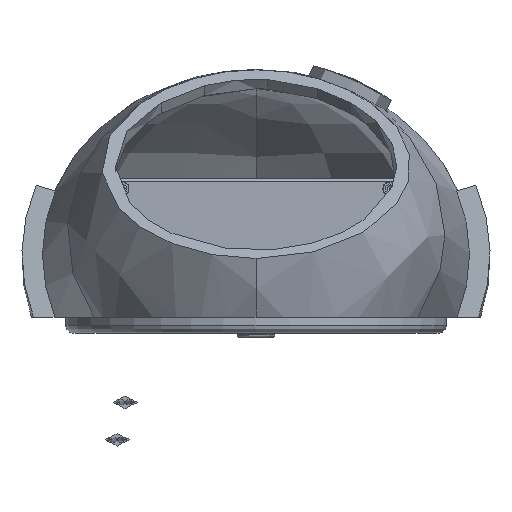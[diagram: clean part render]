
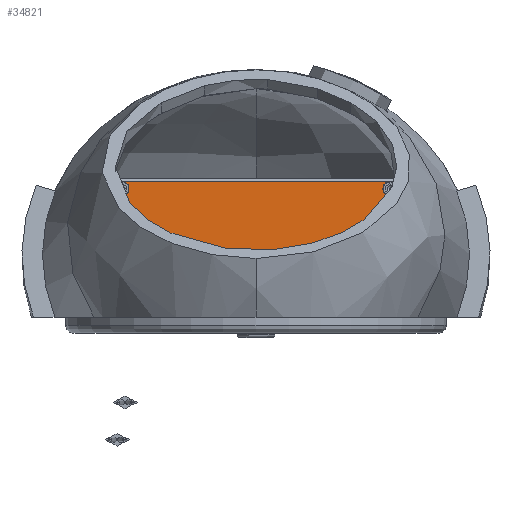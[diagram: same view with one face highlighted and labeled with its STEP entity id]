
A CAD part, front view. The second image highlights one B-rep face of the part: STEP entity #34821.
In plain terms, the highlighted planar face has unit normal (0, -1, 0) as drawn and (0, 1, 0) by its records, which use the part's own axes.
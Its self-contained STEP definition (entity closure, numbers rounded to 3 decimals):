
#520 = DIRECTION ( 'NONE',  ( 0., 1., 0. ) ) ;
#655 = AXIS2_PLACEMENT_3D ( 'NONE', #14400, #36249, #49041 ) ;
#749 = DIRECTION ( 'NONE',  ( 0., 0., 1. ) ) ;
#989 = CARTESIAN_POINT ( 'NONE',  ( -52., 3., 17.5 ) ) ;
#1458 = CARTESIAN_POINT ( 'NONE',  ( 52., 3., -35.5 ) ) ;
#1633 = DIRECTION ( 'NONE',  ( 0., -1., 0. ) ) ;
#1652 = EDGE_LOOP ( 'NONE', ( #13787, #12788 ) ) ;
#2182 = VECTOR ( 'NONE', #54760, 1000. ) ;
#3119 = LINE ( 'NONE', #14829, #45410 ) ;
#3534 = CIRCLE ( 'NONE', #25268, 2.75 ) ;
#3730 = AXIS2_PLACEMENT_3D ( 'NONE', #51884, #5193, #26110 ) ;
#3884 = VERTEX_POINT ( 'NONE', #47427 ) ;
#3923 = AXIS2_PLACEMENT_3D ( 'NONE', #22395, #520, #47807 ) ;
#4397 = EDGE_LOOP ( 'NONE', ( #5653, #35150 ) ) ;
#4538 = VERTEX_POINT ( 'NONE', #49697 ) ;
#4732 = FACE_BOUND ( 'NONE', #4397, .T. ) ;
#5071 = ORIENTED_EDGE ( 'NONE', *, *, #54418, .T. ) ;
#5106 = VERTEX_POINT ( 'NONE', #39862 ) ;
#5193 = DIRECTION ( 'NONE',  ( 0., 1., 0. ) ) ;
#5274 = DIRECTION ( 'NONE',  ( 0., 0., -1. ) ) ;
#5324 = CARTESIAN_POINT ( 'NONE',  ( -49.2, 3., 18.45 ) ) ;
#5407 = CARTESIAN_POINT ( 'NONE',  ( 49.2, 3., -31.7 ) ) ;
#5653 = ORIENTED_EDGE ( 'NONE', *, *, #54860, .T. ) ;
#5676 = CARTESIAN_POINT ( 'NONE',  ( 49.2, 3., 15.7 ) ) ;
#7393 = CARTESIAN_POINT ( 'NONE',  ( 49.2, 3., 15.7 ) ) ;
#9039 = AXIS2_PLACEMENT_3D ( 'NONE', #37815, #32705, #28937 ) ;
#9501 = FACE_OUTER_BOUND ( 'NONE', #54353, .T. ) ;
#9712 = CIRCLE ( 'NONE', #9039, 2.75 ) ;
#9933 = AXIS2_PLACEMENT_3D ( 'NONE', #21221, #43038, #55355 ) ;
#10136 = EDGE_CURVE ( 'NONE', #17221, #4538, #35732, .T. ) ;
#10270 = CARTESIAN_POINT ( 'NONE',  ( 49.2, 3., -34.45 ) ) ;
#10711 = ORIENTED_EDGE ( 'NONE', *, *, #17623, .T. ) ;
#10872 = EDGE_CURVE ( 'NONE', #44757, #36996, #13434, .T. ) ;
#11476 = FACE_BOUND ( 'NONE', #22676, .T. ) ;
#12788 = ORIENTED_EDGE ( 'NONE', *, *, #53089, .T. ) ;
#13105 = EDGE_CURVE ( 'NONE', #50874, #32059, #20737, .T. ) ;
#13434 = CIRCLE ( 'NONE', #655, 1. ) ;
#13626 = ORIENTED_EDGE ( 'NONE', *, *, #24603, .T. ) ;
#13678 = LINE ( 'NONE', #55336, #2182 ) ;
#13772 = CARTESIAN_POINT ( 'NONE',  ( -49.2, 3., -31.7 ) ) ;
#13787 = ORIENTED_EDGE ( 'NONE', *, *, #54435, .T. ) ;
#14063 = VECTOR ( 'NONE', #5274, 1000. ) ;
#14302 = DIRECTION ( 'NONE',  ( 0., -1., 0. ) ) ;
#14400 = CARTESIAN_POINT ( 'NONE',  ( -51., 3., 17.5 ) ) ;
#14829 = CARTESIAN_POINT ( 'NONE',  ( -52., 3., 17.5 ) ) ;
#15392 = DIRECTION ( 'NONE',  ( 0., 0., 1. ) ) ;
#15621 = CIRCLE ( 'NONE', #16589, 2.75 ) ;
#16589 = AXIS2_PLACEMENT_3D ( 'NONE', #7393, #46495, #50473 ) ;
#17088 = VERTEX_POINT ( 'NONE', #10270 ) ;
#17221 = VERTEX_POINT ( 'NONE', #19271 ) ;
#17453 = CARTESIAN_POINT ( 'NONE',  ( -49.2, 3., 15.7 ) ) ;
#17623 = EDGE_CURVE ( 'NONE', #32059, #50874, #18319, .T. ) ;
#18319 = CIRCLE ( 'NONE', #41271, 2.75 ) ;
#19232 = VECTOR ( 'NONE', #21187, 1000. ) ;
#19271 = CARTESIAN_POINT ( 'NONE',  ( 51., 3., 18.5 ) ) ;
#19995 = EDGE_CURVE ( 'NONE', #4538, #24692, #25520, .T. ) ;
#20619 = CARTESIAN_POINT ( 'NONE',  ( -52., 3., -35.5 ) ) ;
#20737 = CIRCLE ( 'NONE', #52671, 2.75 ) ;
#21187 = DIRECTION ( 'NONE',  ( 1., 0., 0. ) ) ;
#21221 = CARTESIAN_POINT ( 'NONE',  ( 49.2, 3., -31.7 ) ) ;
#21832 = ORIENTED_EDGE ( 'NONE', *, *, #31628, .T. ) ;
#22380 = FACE_BOUND ( 'NONE', #1652, .T. ) ;
#22395 = CARTESIAN_POINT ( 'NONE',  ( 51., 3., 17.5 ) ) ;
#22676 = EDGE_LOOP ( 'NONE', ( #10711, #38603 ) ) ;
#23997 = EDGE_LOOP ( 'NONE', ( #5071, #13626 ) ) ;
#24439 = ORIENTED_EDGE ( 'NONE', *, *, #19995, .T. ) ;
#24603 = EDGE_CURVE ( 'NONE', #17088, #33545, #42727, .T. ) ;
#24692 = VERTEX_POINT ( 'NONE', #30986 ) ;
#25268 = AXIS2_PLACEMENT_3D ( 'NONE', #5407, #34766, #39841 ) ;
#25520 = LINE ( 'NONE', #1458, #14063 ) ;
#25696 = EDGE_CURVE ( 'NONE', #24692, #32996, #13678, .T. ) ;
#26110 = DIRECTION ( 'NONE',  ( 0., 0., 1. ) ) ;
#28464 = VERTEX_POINT ( 'NONE', #40708 ) ;
#28937 = DIRECTION ( 'NONE',  ( 0., 0., 1. ) ) ;
#30043 = ORIENTED_EDGE ( 'NONE', *, *, #10872, .T. ) ;
#30965 = PLANE ( 'NONE',  #3730 ) ;
#30986 = CARTESIAN_POINT ( 'NONE',  ( 52., 3., -35.5 ) ) ;
#31184 = DIRECTION ( 'NONE',  ( 0., 0., 1. ) ) ;
#31628 = EDGE_CURVE ( 'NONE', #36996, #17221, #38760, .T. ) ;
#32059 = VERTEX_POINT ( 'NONE', #45692 ) ;
#32290 = CIRCLE ( 'NONE', #34230, 2.75 ) ;
#32705 = DIRECTION ( 'NONE',  ( 0., -1., 0. ) ) ;
#32996 = VERTEX_POINT ( 'NONE', #20619 ) ;
#33421 = CARTESIAN_POINT ( 'NONE',  ( 51., 3., 18.5 ) ) ;
#33545 = VERTEX_POINT ( 'NONE', #42116 ) ;
#33827 = FACE_BOUND ( 'NONE', #23997, .T. ) ;
#34230 = AXIS2_PLACEMENT_3D ( 'NONE', #5676, #14302, #35776 ) ;
#34766 = DIRECTION ( 'NONE',  ( 0., -1., 0. ) ) ;
#34821 = ADVANCED_FACE ( 'NONE', ( #33827, #22380, #9501, #11476, #4732 ), #30965, .T. ) ;
#35150 = ORIENTED_EDGE ( 'NONE', *, *, #40611, .T. ) ;
#35227 = ORIENTED_EDGE ( 'NONE', *, *, #52928, .T. ) ;
#35732 = CIRCLE ( 'NONE', #3923, 1. ) ;
#35776 = DIRECTION ( 'NONE',  ( 0., 0., 1. ) ) ;
#36151 = CARTESIAN_POINT ( 'NONE',  ( -51., 3., 18.5 ) ) ;
#36191 = VERTEX_POINT ( 'NONE', #5324 ) ;
#36249 = DIRECTION ( 'NONE',  ( 0., 1., 0. ) ) ;
#36996 = VERTEX_POINT ( 'NONE', #36151 ) ;
#37815 = CARTESIAN_POINT ( 'NONE',  ( -49.2, 3., 15.7 ) ) ;
#38603 = ORIENTED_EDGE ( 'NONE', *, *, #13105, .T. ) ;
#38760 = LINE ( 'NONE', #33421, #19232 ) ;
#39841 = DIRECTION ( 'NONE',  ( 0., 0., 1. ) ) ;
#39862 = CARTESIAN_POINT ( 'NONE',  ( -49.2, 3., 12.95 ) ) ;
#40611 = EDGE_CURVE ( 'NONE', #3884, #28464, #32290, .T. ) ;
#40708 = CARTESIAN_POINT ( 'NONE',  ( 49.2, 3., 18.45 ) ) ;
#41271 = AXIS2_PLACEMENT_3D ( 'NONE', #13772, #52390, #749 ) ;
#42116 = CARTESIAN_POINT ( 'NONE',  ( 49.2, 3., -28.95 ) ) ;
#42489 = ORIENTED_EDGE ( 'NONE', *, *, #25696, .T. ) ;
#42727 = CIRCLE ( 'NONE', #9933, 2.75 ) ;
#43038 = DIRECTION ( 'NONE',  ( 0., -1., 0. ) ) ;
#44383 = DIRECTION ( 'NONE',  ( 0., 0., 1. ) ) ;
#44757 = VERTEX_POINT ( 'NONE', #989 ) ;
#44836 = AXIS2_PLACEMENT_3D ( 'NONE', #17453, #48313, #31184 ) ;
#45264 = CIRCLE ( 'NONE', #44836, 2.75 ) ;
#45410 = VECTOR ( 'NONE', #15392, 1000. ) ;
#45692 = CARTESIAN_POINT ( 'NONE',  ( -49.2, 3., -28.95 ) ) ;
#46495 = DIRECTION ( 'NONE',  ( 0., -1., 0. ) ) ;
#46929 = CARTESIAN_POINT ( 'NONE',  ( -49.2, 3., -34.45 ) ) ;
#47427 = CARTESIAN_POINT ( 'NONE',  ( 49.2, 3., 12.95 ) ) ;
#47807 = DIRECTION ( 'NONE',  ( 0., 0., 1. ) ) ;
#48313 = DIRECTION ( 'NONE',  ( 0., -1., 0. ) ) ;
#49041 = DIRECTION ( 'NONE',  ( 0., 0., 1. ) ) ;
#49697 = CARTESIAN_POINT ( 'NONE',  ( 52., 3., 17.5 ) ) ;
#50473 = DIRECTION ( 'NONE',  ( 0., 0., 1. ) ) ;
#50874 = VERTEX_POINT ( 'NONE', #46929 ) ;
#51501 = ORIENTED_EDGE ( 'NONE', *, *, #10136, .T. ) ;
#51884 = CARTESIAN_POINT ( 'NONE',  ( 51., 3., 17.5 ) ) ;
#52390 = DIRECTION ( 'NONE',  ( 0., -1., 0. ) ) ;
#52671 = AXIS2_PLACEMENT_3D ( 'NONE', #52719, #1633, #44383 ) ;
#52719 = CARTESIAN_POINT ( 'NONE',  ( -49.2, 3., -31.7 ) ) ;
#52928 = EDGE_CURVE ( 'NONE', #32996, #44757, #3119, .T. ) ;
#53089 = EDGE_CURVE ( 'NONE', #5106, #36191, #9712, .T. ) ;
#54353 = EDGE_LOOP ( 'NONE', ( #42489, #35227, #30043, #21832, #51501, #24439 ) ) ;
#54418 = EDGE_CURVE ( 'NONE', #33545, #17088, #3534, .T. ) ;
#54435 = EDGE_CURVE ( 'NONE', #36191, #5106, #45264, .T. ) ;
#54760 = DIRECTION ( 'NONE',  ( -1., 0., 0. ) ) ;
#54860 = EDGE_CURVE ( 'NONE', #28464, #3884, #15621, .T. ) ;
#55336 = CARTESIAN_POINT ( 'NONE',  ( -53., 3., -35.5 ) ) ;
#55355 = DIRECTION ( 'NONE',  ( 0., 0., 1. ) ) ;
